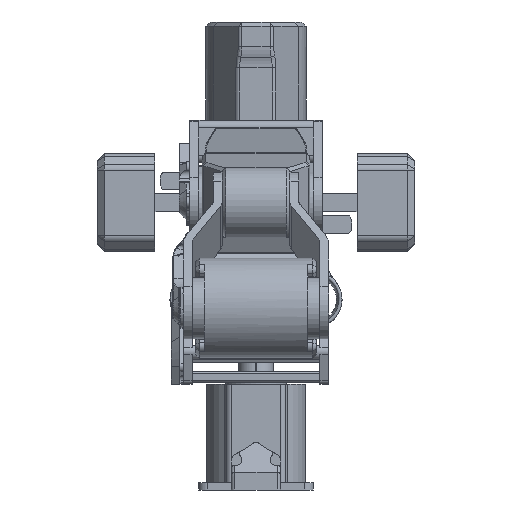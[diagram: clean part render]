
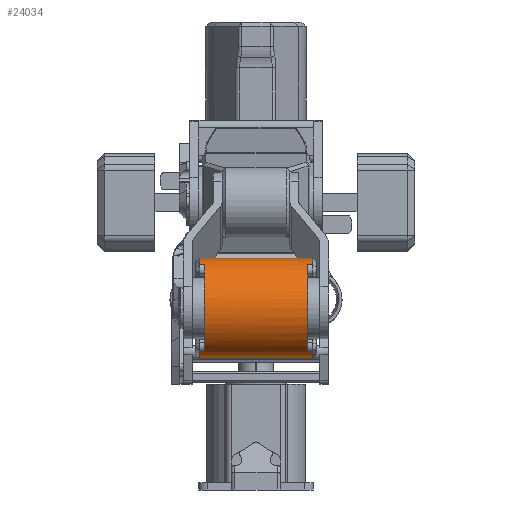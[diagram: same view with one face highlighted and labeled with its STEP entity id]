
A CAD part, left-side view. The second image highlights one B-rep face of the part: STEP entity #24034.
In plain terms, the highlighted cylindrical face has radius 28.5 mm (diameter 57 mm), a partial arc.
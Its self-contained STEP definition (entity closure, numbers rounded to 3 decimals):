
#1212=CIRCLE('',#25780,28.5);
#1213=CIRCLE('',#25781,28.5);
#1214=CIRCLE('',#25782,28.5);
#1215=CIRCLE('',#25783,28.5);
#1216=CIRCLE('',#25784,28.5);
#1217=CIRCLE('',#25785,28.5);
#2516=CYLINDRICAL_SURFACE('',#25779,28.5);
#3068=FACE_OUTER_BOUND('',#4536,.T.);
#4536=EDGE_LOOP('',(#16556,#16557,#16558,#16559,#16560,#16561,#16562,#16563,
#16564,#16565,#16566,#16567));
#6202=LINE('',#36189,#8078);
#6203=LINE('',#36193,#8079);
#6204=LINE('',#36197,#8080);
#6205=LINE('',#36201,#8081);
#6206=LINE('',#36205,#8082);
#6207=LINE('',#36208,#8083);
#8078=VECTOR('',#28991,1000.);
#8079=VECTOR('',#28994,1000.);
#8080=VECTOR('',#28997,1000.);
#8081=VECTOR('',#29000,1000.);
#8082=VECTOR('',#29003,1000.);
#8083=VECTOR('',#29006,1000.);
#9965=VERTEX_POINT('',#36185);
#9966=VERTEX_POINT('',#36186);
#9967=VERTEX_POINT('',#36188);
#9968=VERTEX_POINT('',#36190);
#9969=VERTEX_POINT('',#36192);
#9970=VERTEX_POINT('',#36194);
#9971=VERTEX_POINT('',#36196);
#9972=VERTEX_POINT('',#36198);
#9973=VERTEX_POINT('',#36200);
#9974=VERTEX_POINT('',#36202);
#9975=VERTEX_POINT('',#36204);
#9976=VERTEX_POINT('',#36206);
#12443=EDGE_CURVE('',#9965,#9966,#1212,.T.);
#12444=EDGE_CURVE('',#9966,#9967,#6202,.T.);
#12445=EDGE_CURVE('',#9967,#9968,#1213,.T.);
#12446=EDGE_CURVE('',#9969,#9968,#6203,.T.);
#12447=EDGE_CURVE('',#9969,#9970,#1214,.T.);
#12448=EDGE_CURVE('',#9970,#9971,#6204,.T.);
#12449=EDGE_CURVE('',#9971,#9972,#1215,.T.);
#12450=EDGE_CURVE('',#9973,#9972,#6205,.T.);
#12451=EDGE_CURVE('',#9973,#9974,#1216,.T.);
#12452=EDGE_CURVE('',#9975,#9974,#6206,.T.);
#12453=EDGE_CURVE('',#9976,#9975,#1217,.T.);
#12454=EDGE_CURVE('',#9976,#9965,#6207,.T.);
#16556=ORIENTED_EDGE('',*,*,#12443,.T.);
#16557=ORIENTED_EDGE('',*,*,#12444,.T.);
#16558=ORIENTED_EDGE('',*,*,#12445,.T.);
#16559=ORIENTED_EDGE('',*,*,#12446,.F.);
#16560=ORIENTED_EDGE('',*,*,#12447,.T.);
#16561=ORIENTED_EDGE('',*,*,#12448,.T.);
#16562=ORIENTED_EDGE('',*,*,#12449,.T.);
#16563=ORIENTED_EDGE('',*,*,#12450,.F.);
#16564=ORIENTED_EDGE('',*,*,#12451,.T.);
#16565=ORIENTED_EDGE('',*,*,#12452,.F.);
#16566=ORIENTED_EDGE('',*,*,#12453,.F.);
#16567=ORIENTED_EDGE('',*,*,#12454,.T.);
#24034=ADVANCED_FACE('',(#3068),#2516,.T.);
#25779=AXIS2_PLACEMENT_3D('',#36184,#28987,#28988);
#25780=AXIS2_PLACEMENT_3D('',#36187,#28989,#28990);
#25781=AXIS2_PLACEMENT_3D('',#36191,#28992,#28993);
#25782=AXIS2_PLACEMENT_3D('',#36195,#28995,#28996);
#25783=AXIS2_PLACEMENT_3D('',#36199,#28998,#28999);
#25784=AXIS2_PLACEMENT_3D('',#36203,#29001,#29002);
#25785=AXIS2_PLACEMENT_3D('',#36207,#29004,#29005);
#28987=DIRECTION('center_axis',(0.,1.,0.));
#28988=DIRECTION('ref_axis',(-1.,0.,0.));
#28989=DIRECTION('center_axis',(0.,1.,0.));
#28990=DIRECTION('ref_axis',(0.,0.,-1.));
#28991=DIRECTION('',(0.,1.,0.));
#28992=DIRECTION('center_axis',(0.,-1.,0.));
#28993=DIRECTION('ref_axis',(0.,0.,1.));
#28994=DIRECTION('',(0.,1.,0.));
#28995=DIRECTION('center_axis',(0.,-1.,0.));
#28996=DIRECTION('ref_axis',(0.,0.,1.));
#28997=DIRECTION('',(0.,1.,0.));
#28998=DIRECTION('center_axis',(0.,-1.,0.));
#28999=DIRECTION('ref_axis',(0.,0.,1.));
#29000=DIRECTION('',(0.,1.,0.));
#29001=DIRECTION('center_axis',(0.,1.,0.));
#29002=DIRECTION('ref_axis',(0.,0.,-1.));
#29003=DIRECTION('',(0.,-1.,0.));
#29004=DIRECTION('center_axis',(0.,-1.,0.));
#29005=DIRECTION('ref_axis',(0.,0.,1.));
#29006=DIRECTION('',(0.,-1.,0.));
#36184=CARTESIAN_POINT('Origin',(-264.,-50.,0.));
#36185=CARTESIAN_POINT('',(-278.25,-32.325,24.682));
#36186=CARTESIAN_POINT('',(-259.051,-32.325,28.067));
#36187=CARTESIAN_POINT('Origin',(-264.,-32.325,0.));
#36188=CARTESIAN_POINT('',(-259.051,32.325,28.067));
#36189=CARTESIAN_POINT('',(-259.051,-50.,28.067));
#36190=CARTESIAN_POINT('',(-278.25,32.325,24.682));
#36191=CARTESIAN_POINT('Origin',(-264.,32.325,0.));
#36192=CARTESIAN_POINT('',(-278.25,29.325,24.682));
#36193=CARTESIAN_POINT('',(-278.25,29.325,24.682));
#36194=CARTESIAN_POINT('',(-278.25,29.325,-24.682));
#36195=CARTESIAN_POINT('Origin',(-264.,29.325,0.));
#36196=CARTESIAN_POINT('',(-278.25,32.325,-24.682));
#36197=CARTESIAN_POINT('',(-278.25,29.325,-24.682));
#36198=CARTESIAN_POINT('',(-259.051,32.325,-28.067));
#36199=CARTESIAN_POINT('Origin',(-264.,32.325,0.));
#36200=CARTESIAN_POINT('',(-259.051,-32.325,-28.067));
#36201=CARTESIAN_POINT('',(-259.051,-50.,-28.067));
#36202=CARTESIAN_POINT('',(-278.25,-32.325,-24.682));
#36203=CARTESIAN_POINT('Origin',(-264.,-32.325,0.));
#36204=CARTESIAN_POINT('',(-278.25,-29.325,-24.682));
#36205=CARTESIAN_POINT('',(-278.25,-29.325,-24.682));
#36206=CARTESIAN_POINT('',(-278.25,-29.325,24.682));
#36207=CARTESIAN_POINT('Origin',(-264.,-29.325,0.));
#36208=CARTESIAN_POINT('',(-278.25,-29.325,24.682));
